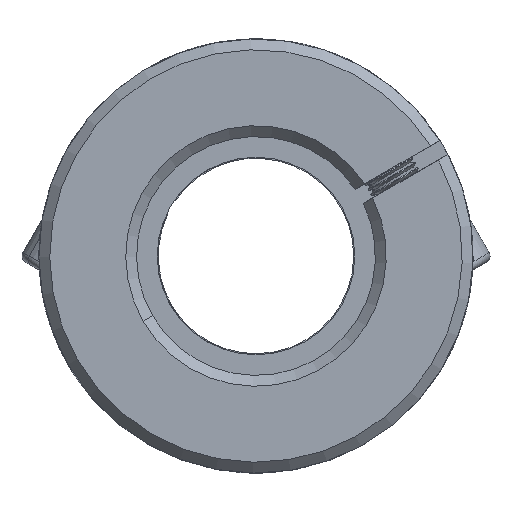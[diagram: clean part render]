
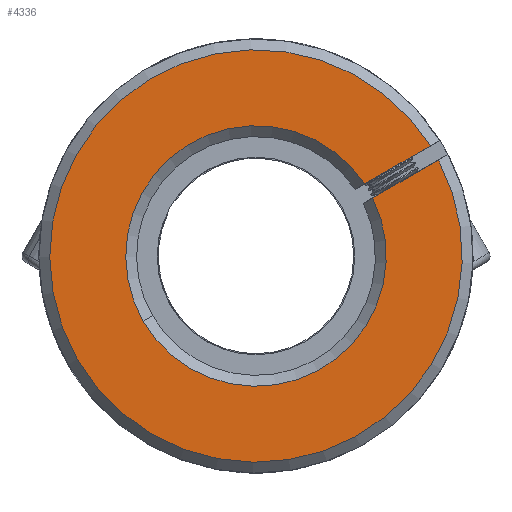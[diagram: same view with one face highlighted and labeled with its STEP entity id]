
A CAD part, front view. The second image highlights one B-rep face of the part: STEP entity #4336.
In plain terms, the highlighted planar face has unit normal (0, -1, 0).
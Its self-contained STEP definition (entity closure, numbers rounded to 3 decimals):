
#80 = CARTESIAN_POINT ( 'NONE',  ( 14.616, -31.239, 50.147 ) ) ;
#219 = LINE ( 'NONE', #12511, #6816 ) ;
#356 = CIRCLE ( 'NONE', #8778, 12. ) ;
#966 = CARTESIAN_POINT ( 'NONE',  ( 9.298, -31.239, 45.342 ) ) ;
#1054 = CARTESIAN_POINT ( 'NONE',  ( -11.837, -31.239, 33.997 ) ) ;
#2284 = EDGE_LOOP ( 'NONE', ( #5990, #8925, #7896, #4695, #5360 ) ) ;
#2643 = VERTEX_POINT ( 'NONE', #80 ) ;
#2771 = DIRECTION ( 'NONE',  ( -0.866, 0., -0.5 ) ) ;
#2897 = EDGE_CURVE ( 'NONE', #2643, #5094, #219, .T. ) ;
#3293 = EDGE_CURVE ( 'NONE', #2643, #11017, #8136, .T. ) ;
#3526 = EDGE_CURVE ( 'NONE', #4957, #5094, #13654, .T. ) ;
#3746 = DIRECTION ( 'NONE',  ( 0., 1., 0. ) ) ;
#4336 = ADVANCED_FACE ( 'NONE', ( #5780 ), #7986, .F. ) ;
#4404 = CARTESIAN_POINT ( 'NONE',  ( 15.367, -31.239, 48.848 ) ) ;
#4695 = ORIENTED_EDGE ( 'NONE', *, *, #2897, .F. ) ;
#4852 = DIRECTION ( 'NONE',  ( 0.5, 0., -0.866 ) ) ;
#4957 = VERTEX_POINT ( 'NONE', #1054 ) ;
#5015 = DIRECTION ( 'NONE',  ( 0., -1., 0. ) ) ;
#5034 = VERTEX_POINT ( 'NONE', #966 ) ;
#5094 = VERTEX_POINT ( 'NONE', #9895 ) ;
#5159 = DIRECTION ( 'NONE',  ( 0.866, 0., 0.5 ) ) ;
#5360 = ORIENTED_EDGE ( 'NONE', *, *, #3293, .T. ) ;
#5780 = FACE_OUTER_BOUND ( 'NONE', #2284, .T. ) ;
#5990 = ORIENTED_EDGE ( 'NONE', *, *, #10326, .F. ) ;
#6245 = DIRECTION ( 'NONE',  ( 0.5, 0., -0.866 ) ) ;
#6816 = VECTOR ( 'NONE', #2771, 1000. ) ;
#6885 = EDGE_CURVE ( 'NONE', #5034, #4957, #356, .T. ) ;
#7645 = CARTESIAN_POINT ( 'NONE',  ( -1.447, -31.239, 40. ) ) ;
#7693 = DIRECTION ( 'NONE',  ( 0., 1., 0. ) ) ;
#7744 = DIRECTION ( 'NONE',  ( 0.5, 0., -0.866 ) ) ;
#7896 = ORIENTED_EDGE ( 'NONE', *, *, #3526, .T. ) ;
#7986 = PLANE ( 'NONE',  #11701 ) ;
#8136 = CIRCLE ( 'NONE', #13817, 19. ) ;
#8206 = CARTESIAN_POINT ( 'NONE',  ( -1.447, -31.239, 40. ) ) ;
#8440 = CARTESIAN_POINT ( 'NONE',  ( 8.431, -31.239, 44.841 ) ) ;
#8778 = AXIS2_PLACEMENT_3D ( 'NONE', #11620, #13855, #6245 ) ;
#8925 = ORIENTED_EDGE ( 'NONE', *, *, #6885, .T. ) ;
#8932 = AXIS2_PLACEMENT_3D ( 'NONE', #7645, #7693, #7744 ) ;
#9895 = CARTESIAN_POINT ( 'NONE',  ( 8.548, -31.239, 46.641 ) ) ;
#10326 = EDGE_CURVE ( 'NONE', #5034, #11017, #12723, .T. ) ;
#11017 = VERTEX_POINT ( 'NONE', #4404 ) ;
#11620 = CARTESIAN_POINT ( 'NONE',  ( -1.447, -31.239, 40. ) ) ;
#11701 = AXIS2_PLACEMENT_3D ( 'NONE', #12278, #3746, #4852 ) ;
#11896 = VECTOR ( 'NONE', #5159, 1000. ) ;
#12278 = CARTESIAN_POINT ( 'NONE',  ( 52.98, -31.239, 45.743 ) ) ;
#12511 = CARTESIAN_POINT ( 'NONE',  ( 7.68, -31.239, 46.14 ) ) ;
#12723 = LINE ( 'NONE', #8440, #11896 ) ;
#13535 = DIRECTION ( 'NONE',  ( 0.5, 0., -0.866 ) ) ;
#13654 = CIRCLE ( 'NONE', #8932, 12. ) ;
#13817 = AXIS2_PLACEMENT_3D ( 'NONE', #8206, #5015, #13535 ) ;
#13855 = DIRECTION ( 'NONE',  ( 0., 1., 0. ) ) ;
